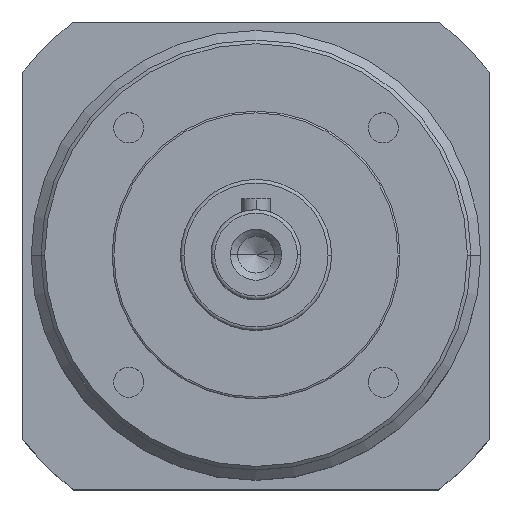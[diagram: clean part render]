
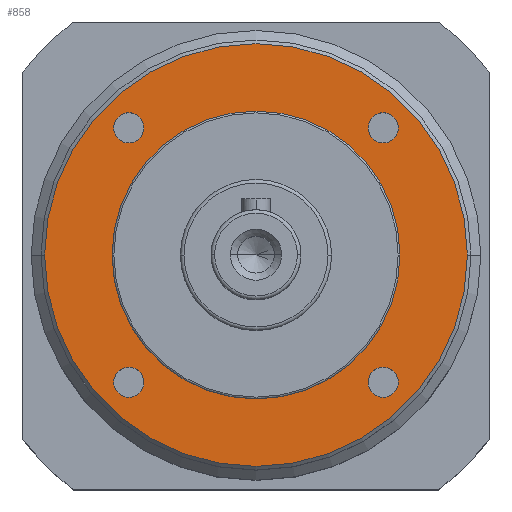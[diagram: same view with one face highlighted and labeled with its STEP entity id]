
A CAD part, top view. The second image highlights one B-rep face of the part: STEP entity #858.
In plain terms, the highlighted planar face has unit normal (0, 0, 1).
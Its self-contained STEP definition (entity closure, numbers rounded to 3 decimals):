
#80 = CARTESIAN_POINT ( 'NONE',  ( -35.355, 35.355, 22.5 ) ) ;
#173 = EDGE_CURVE ( 'NONE', #3747, #4411, #1600, .T. ) ;
#188 = AXIS2_PLACEMENT_3D ( 'NONE', #3485, #1007, #3905 ) ;
#289 = DIRECTION ( 'NONE',  ( 0., 0., 1. ) ) ;
#359 = DIRECTION ( 'NONE',  ( 1., 0., 0. ) ) ;
#423 = EDGE_CURVE ( 'NONE', #2924, #4625, #2742, .T. ) ;
#437 = VERTEX_POINT ( 'NONE', #852 ) ;
#505 = AXIS2_PLACEMENT_3D ( 'NONE', #1907, #2326, #2749 ) ;
#514 = CIRCLE ( 'NONE', #2559, 40. ) ;
#527 = CIRCLE ( 'NONE', #2040, 58.75 ) ;
#536 = CIRCLE ( 'NONE', #505, 4.2 ) ;
#597 = CARTESIAN_POINT ( 'NONE',  ( 35.355, 35.355, 22.5 ) ) ;
#681 = DIRECTION ( 'NONE',  ( 0., 0., 1. ) ) ;
#732 = EDGE_CURVE ( 'NONE', #3927, #2493, #4075, .T. ) ;
#751 = ORIENTED_EDGE ( 'NONE', *, *, #4480, .F. ) ;
#774 = DIRECTION ( 'NONE',  ( 0., 0., 1. ) ) ;
#792 = EDGE_CURVE ( 'NONE', #3698, #4384, #536, .T. ) ;
#810 = CARTESIAN_POINT ( 'NONE',  ( 39.555, -35.355, 22.5 ) ) ;
#831 = CIRCLE ( 'NONE', #4216, 4.2 ) ;
#852 = CARTESIAN_POINT ( 'NONE',  ( 58.75, 0., 22.5 ) ) ;
#858 = ADVANCED_FACE ( 'NONE', ( #5039, #4516, #2794, #4068, #1690, #3126 ), #1588, .T. ) ;
#919 = CARTESIAN_POINT ( 'NONE',  ( -31.155, 35.355, 22.5 ) ) ;
#941 = EDGE_CURVE ( 'NONE', #4384, #3698, #4015, .T. ) ;
#967 = ORIENTED_EDGE ( 'NONE', *, *, #173, .F. ) ;
#977 = CARTESIAN_POINT ( 'NONE',  ( 31.155, 35.355, 22.5 ) ) ;
#982 = ORIENTED_EDGE ( 'NONE', *, *, #792, .F. ) ;
#990 = AXIS2_PLACEMENT_3D ( 'NONE', #597, #1012, #1850 ) ;
#1007 = DIRECTION ( 'NONE',  ( 0., 0., 1. ) ) ;
#1012 = DIRECTION ( 'NONE',  ( 0., 0., 1. ) ) ;
#1069 = AXIS2_PLACEMENT_3D ( 'NONE', #2412, #774, #2058 ) ;
#1157 = CARTESIAN_POINT ( 'NONE',  ( 0., 0., 22.5 ) ) ;
#1167 = DIRECTION ( 'NONE',  ( 0., 0., 1. ) ) ;
#1195 = DIRECTION ( 'NONE',  ( 0., 0., 1. ) ) ;
#1304 = DIRECTION ( 'NONE',  ( 0., 0., 1. ) ) ;
#1314 = ORIENTED_EDGE ( 'NONE', *, *, #732, .F. ) ;
#1397 = EDGE_LOOP ( 'NONE', ( #1314, #4755 ) ) ;
#1588 = PLANE ( 'NONE',  #4652 ) ;
#1600 = CIRCLE ( 'NONE', #188, 4.2 ) ;
#1646 = DIRECTION ( 'NONE',  ( 0., 0., 1. ) ) ;
#1647 = DIRECTION ( 'NONE',  ( 1., 0., 0. ) ) ;
#1690 = FACE_OUTER_BOUND ( 'NONE', #4819, .T. ) ;
#1714 = AXIS2_PLACEMENT_3D ( 'NONE', #4067, #1195, #4487 ) ;
#1801 = CARTESIAN_POINT ( 'NONE',  ( -58.75, 0., 22.5 ) ) ;
#1818 = CIRCLE ( 'NONE', #4309, 40. ) ;
#1850 = DIRECTION ( 'NONE',  ( 1., 0., 0. ) ) ;
#1858 = EDGE_CURVE ( 'NONE', #3486, #3873, #1818, .T. ) ;
#1907 = CARTESIAN_POINT ( 'NONE',  ( -35.355, -35.355, 22.5 ) ) ;
#1984 = AXIS2_PLACEMENT_3D ( 'NONE', #4790, #681, #4747 ) ;
#2040 = AXIS2_PLACEMENT_3D ( 'NONE', #3284, #3656, #359 ) ;
#2058 = DIRECTION ( 'NONE',  ( 1., 0., 0. ) ) ;
#2098 = AXIS2_PLACEMENT_3D ( 'NONE', #2470, #4908, #1647 ) ;
#2173 = DIRECTION ( 'NONE',  ( 1., 0., 0. ) ) ;
#2193 = CARTESIAN_POINT ( 'NONE',  ( -40., 0., 22.5 ) ) ;
#2289 = EDGE_CURVE ( 'NONE', #437, #5107, #4631, .T. ) ;
#2326 = DIRECTION ( 'NONE',  ( 0., 0., 1. ) ) ;
#2412 = CARTESIAN_POINT ( 'NONE',  ( 0., 0., 22.5 ) ) ;
#2470 = CARTESIAN_POINT ( 'NONE',  ( -35.355, -35.355, 22.5 ) ) ;
#2493 = VERTEX_POINT ( 'NONE', #977 ) ;
#2546 = CARTESIAN_POINT ( 'NONE',  ( -31.155, -35.355, 22.5 ) ) ;
#2559 = AXIS2_PLACEMENT_3D ( 'NONE', #4923, #1646, #4145 ) ;
#2575 = EDGE_CURVE ( 'NONE', #4411, #3747, #5143, .T. ) ;
#2742 = CIRCLE ( 'NONE', #1714, 4.2 ) ;
#2749 = DIRECTION ( 'NONE',  ( 1., 0., 0. ) ) ;
#2758 = CARTESIAN_POINT ( 'NONE',  ( 31.155, -35.355, 22.5 ) ) ;
#2761 = EDGE_CURVE ( 'NONE', #5107, #437, #527, .T. ) ;
#2794 = FACE_BOUND ( 'NONE', #3277, .T. ) ;
#2844 = DIRECTION ( 'NONE',  ( 1., 0., 0. ) ) ;
#2873 = CARTESIAN_POINT ( 'NONE',  ( 40., 0., 22.5 ) ) ;
#2887 = ORIENTED_EDGE ( 'NONE', *, *, #3569, .F. ) ;
#2915 = CIRCLE ( 'NONE', #990, 4.2 ) ;
#2924 = VERTEX_POINT ( 'NONE', #4192 ) ;
#2976 = ORIENTED_EDGE ( 'NONE', *, *, #2289, .T. ) ;
#3126 = FACE_BOUND ( 'NONE', #4706, .T. ) ;
#3140 = DIRECTION ( 'NONE',  ( 1., 0., 0. ) ) ;
#3259 = DIRECTION ( 'NONE',  ( 1., 0., 0. ) ) ;
#3277 = EDGE_LOOP ( 'NONE', ( #4451, #967 ) ) ;
#3284 = CARTESIAN_POINT ( 'NONE',  ( 0., 0., 22.5 ) ) ;
#3341 = CARTESIAN_POINT ( 'NONE',  ( 39.555, 35.355, 22.5 ) ) ;
#3440 = AXIS2_PLACEMENT_3D ( 'NONE', #4742, #4341, #3140 ) ;
#3485 = CARTESIAN_POINT ( 'NONE',  ( 35.355, -35.355, 22.5 ) ) ;
#3486 = VERTEX_POINT ( 'NONE', #2193 ) ;
#3502 = EDGE_LOOP ( 'NONE', ( #2887, #3592 ) ) ;
#3569 = EDGE_CURVE ( 'NONE', #4625, #2924, #831, .T. ) ;
#3592 = ORIENTED_EDGE ( 'NONE', *, *, #423, .F. ) ;
#3656 = DIRECTION ( 'NONE',  ( 0., 0., 1. ) ) ;
#3698 = VERTEX_POINT ( 'NONE', #5111 ) ;
#3747 = VERTEX_POINT ( 'NONE', #2758 ) ;
#3873 = VERTEX_POINT ( 'NONE', #2873 ) ;
#3905 = DIRECTION ( 'NONE',  ( 1., 0., 0. ) ) ;
#3927 = VERTEX_POINT ( 'NONE', #3341 ) ;
#4015 = CIRCLE ( 'NONE', #2098, 4.2 ) ;
#4067 = CARTESIAN_POINT ( 'NONE',  ( -35.355, 35.355, 22.5 ) ) ;
#4068 = FACE_BOUND ( 'NONE', #1397, .T. ) ;
#4070 = CARTESIAN_POINT ( 'NONE',  ( 0., 0., 22.5 ) ) ;
#4075 = CIRCLE ( 'NONE', #1984, 4.2 ) ;
#4145 = DIRECTION ( 'NONE',  ( 1., 0., 0. ) ) ;
#4154 = EDGE_CURVE ( 'NONE', #2493, #3927, #2915, .T. ) ;
#4192 = CARTESIAN_POINT ( 'NONE',  ( -39.555, 35.355, 22.5 ) ) ;
#4200 = EDGE_LOOP ( 'NONE', ( #5267, #982 ) ) ;
#4216 = AXIS2_PLACEMENT_3D ( 'NONE', #80, #1304, #2173 ) ;
#4309 = AXIS2_PLACEMENT_3D ( 'NONE', #4070, #1167, #3259 ) ;
#4341 = DIRECTION ( 'NONE',  ( 0., 0., 1. ) ) ;
#4374 = ORIENTED_EDGE ( 'NONE', *, *, #1858, .F. ) ;
#4384 = VERTEX_POINT ( 'NONE', #2546 ) ;
#4411 = VERTEX_POINT ( 'NONE', #810 ) ;
#4451 = ORIENTED_EDGE ( 'NONE', *, *, #2575, .F. ) ;
#4480 = EDGE_CURVE ( 'NONE', #3873, #3486, #514, .T. ) ;
#4487 = DIRECTION ( 'NONE',  ( 1., 0., 0. ) ) ;
#4516 = FACE_BOUND ( 'NONE', #4200, .T. ) ;
#4625 = VERTEX_POINT ( 'NONE', #919 ) ;
#4631 = CIRCLE ( 'NONE', #1069, 58.75 ) ;
#4652 = AXIS2_PLACEMENT_3D ( 'NONE', #1157, #289, #2844 ) ;
#4706 = EDGE_LOOP ( 'NONE', ( #4374, #751 ) ) ;
#4742 = CARTESIAN_POINT ( 'NONE',  ( 35.355, -35.355, 22.5 ) ) ;
#4747 = DIRECTION ( 'NONE',  ( 1., 0., 0. ) ) ;
#4755 = ORIENTED_EDGE ( 'NONE', *, *, #4154, .F. ) ;
#4790 = CARTESIAN_POINT ( 'NONE',  ( 35.355, 35.355, 22.5 ) ) ;
#4819 = EDGE_LOOP ( 'NONE', ( #5069, #2976 ) ) ;
#4908 = DIRECTION ( 'NONE',  ( 0., 0., 1. ) ) ;
#4923 = CARTESIAN_POINT ( 'NONE',  ( 0., 0., 22.5 ) ) ;
#5039 = FACE_BOUND ( 'NONE', #3502, .T. ) ;
#5069 = ORIENTED_EDGE ( 'NONE', *, *, #2761, .T. ) ;
#5107 = VERTEX_POINT ( 'NONE', #1801 ) ;
#5111 = CARTESIAN_POINT ( 'NONE',  ( -39.555, -35.355, 22.5 ) ) ;
#5143 = CIRCLE ( 'NONE', #3440, 4.2 ) ;
#5267 = ORIENTED_EDGE ( 'NONE', *, *, #941, .F. ) ;
